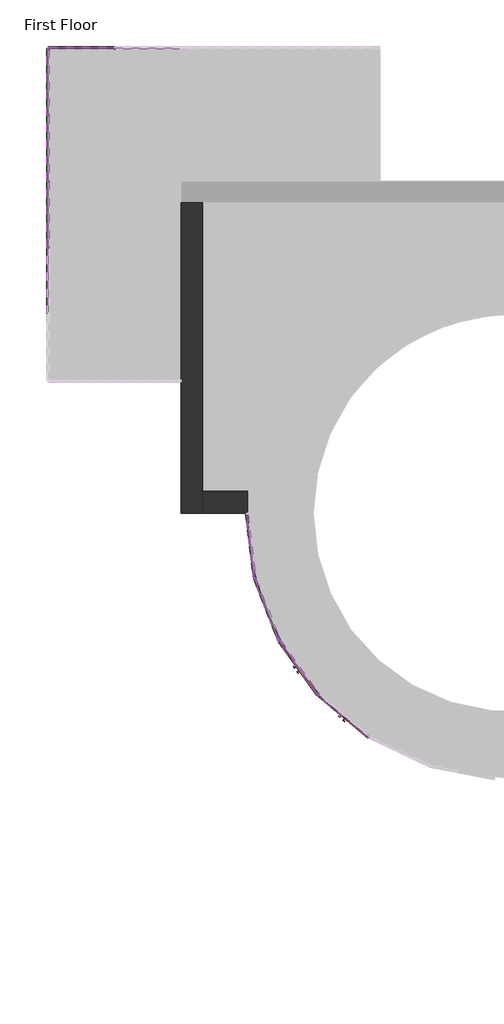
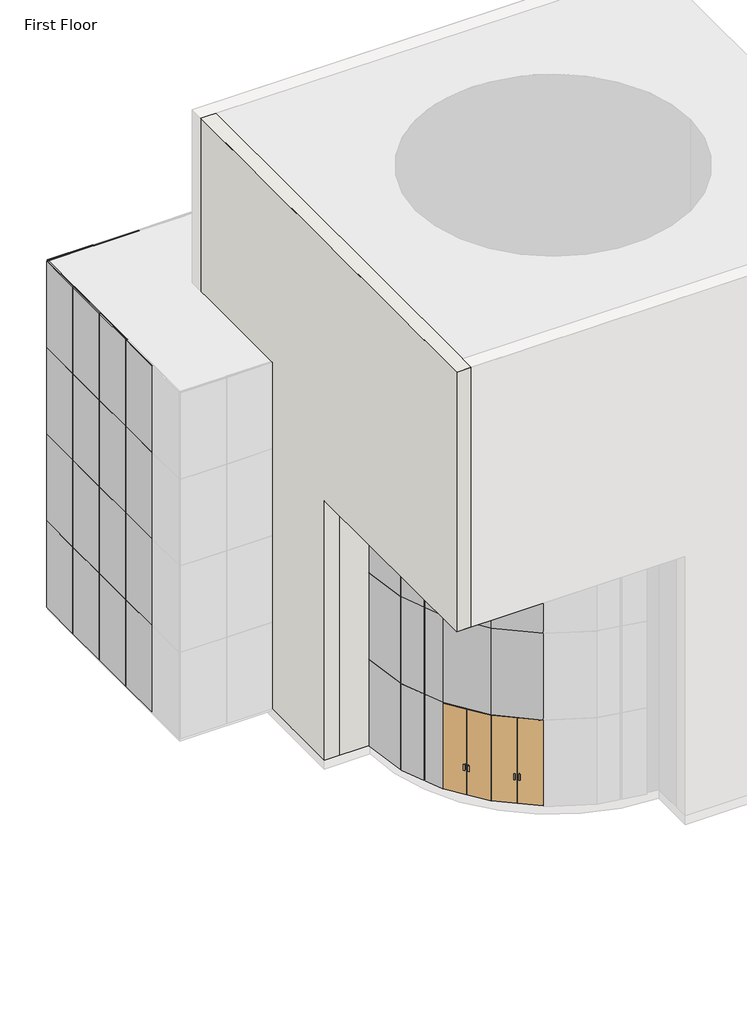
# One storey, part 3 of 4: 73 members, 30 plates, 2 doors, 2 walls.
"""IFC4 building model written with IfcOpenShell, lengths in millimetres."""

from ifc_helpers import new_model, si_unit, origin, origin_with_axes, place, context, project, spatial, polyline, outline, extrude, faceted_brep, transform, mapped, element, save
from components import curtain_wall_dbl_glass_curtain_wall_dbl_glass_35f7ff88, member_74941792, member_5e617a80, member_9fd3d903, member_cbdb9076, member_6604d1e0, member_7e523723, member_648f3f05, member_e23d1186, member_8003fc1d, member_113f7001, member_5d503216, system_panel_glazed_9c75bc08

model = new_model("IFC4")

# Units and contexts
model_context = context("Model", 3, world=origin())
ifc_project = project(units=[si_unit("LENGTHUNIT", "METRE", prefix="MILLI")], contexts=[model_context])

# Site, building, storey
site = spatial("IfcSite", under=ifc_project)
building = spatial("IfcBuilding", under=site)
storey = spatial("IfcBuildingStorey", under=building, Name="First Floor", Elevation=0.0)

# Doors
placement = place(None, origin())
curtain_wall_dbl_glass_curtain_wall_dbl_glass_shape = curtain_wall_dbl_glass_curtain_wall_dbl_glass_35f7ff88(model_context)
element("IfcDoor", 1, ObjectType="Curtain Wall Dbl Glass : Curtain Wall Dbl Glass", at=placement, inside=storey, context=model_context, shape_type="MappedRepresentation", body=[
    mapped(curtain_wall_dbl_glass_curtain_wall_dbl_glass_shape, transform((-11784.3130887, 1572.3130651, 25.4), x_axis=(0.5864257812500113, -0.8100029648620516, 0.0), y_axis=(0.8100029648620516, 0.5864257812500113, 0.0), z_axis=(0.0, 0.0, 1.0))),
])
element("IfcDoor", 2, ObjectType="Curtain Wall Dbl Glass : Curtain Wall Dbl Glass", at=placement, inside=storey, context=model_context, shape_type="MappedRepresentation", body=[
    mapped(curtain_wall_dbl_glass_curtain_wall_dbl_glass_shape, transform((-10751.4691556, 467.9946509, 25.4), x_axis=(0.7690124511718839, -0.6392337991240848, 0.0), y_axis=(0.6392337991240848, 0.7690124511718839, 0.0), z_axis=(0.0, 0.0, 1.0))),
])

# Members
member_shape = member_74941792(model_context)
element("IfcMember", 3, ObjectType="Rectangular Mullion : 1\" Square", at=placement, inside=storey, context=model_context, shape_type="MappedRepresentation", body=[
    mapped(member_shape, transform((-17553.263284, 15761.7261432, 0.0), x_axis=(0.0, 0.0, -1.0), y_axis=(-1.0, 0.0, 0.0), z_axis=(0.0, 1.0, 0.0))),
])
element("IfcMember", 4, ObjectType="Rectangular Mullion : 1\" Square", at=placement, inside=storey, context=model_context, shape_type="MappedRepresentation", body=[
    mapped(member_shape, transform((-16041.963284, 15787.1261432, 0.0), x_axis=(0.0, 0.0, -1.0), y_axis=(0.0, 1.0, 0.0), z_axis=(1.0, 0.0, 0.0))),
])
member_2_shape = member_5e617a80(model_context)
element("IfcMember", 5, ObjectType="Rectangular Mullion : 1\" Square", at=placement, inside=storey, context=model_context, shape_type="MappedRepresentation", body=[
    mapped(member_2_shape, transform((-17553.263284, 14275.8261432, 6096.0), x_axis=(0.0, 0.0, 1.0), y_axis=(-1.0, 0.0, 0.0), z_axis=(0.0, -1.0, 0.0))),
])
element("IfcMember", 6, ObjectType="Rectangular Mullion : 1\" Square", at=placement, inside=storey, context=model_context, shape_type="MappedRepresentation", body=[
    mapped(member_2_shape, transform((-17553.263284, 14275.8261432, 9144.0), x_axis=(0.0, 0.0, 1.0), y_axis=(-1.0, 0.0, 0.0), z_axis=(0.0, -1.0, 0.0))),
])
element("IfcMember", 7, ObjectType="Rectangular Mullion : 1\" Square", at=placement, inside=storey, context=model_context, shape_type="MappedRepresentation", body=[
    mapped(member_2_shape, transform((-17553.263284, 14275.8261432, 3048.0), x_axis=(0.0, 0.0, 1.0), y_axis=(-1.0, 0.0, 0.0), z_axis=(0.0, -1.0, 0.0))),
])
element("IfcMember", 8, ObjectType="Rectangular Mullion : 1\" Square", at=placement, inside=storey, context=model_context, shape_type="MappedRepresentation", body=[
    mapped(member_2_shape, transform((-17527.863284, 15787.1261432, 9144.0), x_axis=(0.0, 0.0, 1.0), y_axis=(0.0, 1.0, 0.0), z_axis=(-1.0, 0.0, 0.0))),
])
element("IfcMember", 9, ObjectType="Rectangular Mullion : 1\" Square", at=placement, inside=storey, context=model_context, shape_type="MappedRepresentation", body=[
    mapped(member_2_shape, transform((-17527.863284, 15787.1261432, 3048.0), x_axis=(0.0, 0.0, 1.0), y_axis=(0.0, 1.0, 0.0), z_axis=(-1.0, 0.0, 0.0))),
])
element("IfcMember", 10, ObjectType="Rectangular Mullion : 1\" Square", at=placement, inside=storey, context=model_context, shape_type="MappedRepresentation", body=[
    mapped(member_2_shape, transform((-17527.863284, 15787.1261432, 6096.0), x_axis=(0.0, 0.0, 1.0), y_axis=(0.0, 1.0, 0.0), z_axis=(-1.0, 0.0, 0.0))),
])
member_3_shape = member_9fd3d903(model_context)
element("IfcMember", 11, ObjectType="Rectangular Mullion : 1\" Square", at=placement, inside=storey, context=model_context, shape_type="MappedRepresentation", body=[
    mapped(member_3_shape, transform((-17553.263284, 12751.8261432, 6096.0), x_axis=(0.0, 0.0, 1.0), y_axis=(-1.0, 0.0, 0.0), z_axis=(0.0, -1.0, 0.0))),
])
element("IfcMember", 12, ObjectType="Rectangular Mullion : 1\" Square", at=placement, inside=storey, context=model_context, shape_type="MappedRepresentation", body=[
    mapped(member_3_shape, transform((-17553.263284, 11227.8261432, 6096.0), x_axis=(0.0, 0.0, 1.0), y_axis=(-1.0, 0.0, 0.0), z_axis=(0.0, -1.0, 0.0))),
])
element("IfcMember", 13, ObjectType="Rectangular Mullion : 1\" Square", at=placement, inside=storey, context=model_context, shape_type="MappedRepresentation", body=[
    mapped(member_3_shape, transform((-17553.263284, 12751.8261432, 9144.0), x_axis=(0.0, 0.0, 1.0), y_axis=(-1.0, 0.0, 0.0), z_axis=(0.0, -1.0, 0.0))),
])
element("IfcMember", 14, ObjectType="Rectangular Mullion : 1\" Square", at=placement, inside=storey, context=model_context, shape_type="MappedRepresentation", body=[
    mapped(member_3_shape, transform((-17553.263284, 11227.8261432, 9144.0), x_axis=(0.0, 0.0, 1.0), y_axis=(-1.0, 0.0, 0.0), z_axis=(0.0, -1.0, 0.0))),
])
element("IfcMember", 15, ObjectType="Rectangular Mullion : 1\" Square", at=placement, inside=storey, context=model_context, shape_type="MappedRepresentation", body=[
    mapped(member_3_shape, transform((-17553.263284, 12751.8261432, 3048.0), x_axis=(0.0, 0.0, 1.0), y_axis=(-1.0, 0.0, 0.0), z_axis=(0.0, -1.0, 0.0))),
])
element("IfcMember", 16, ObjectType="Rectangular Mullion : 1\" Square", at=placement, inside=storey, context=model_context, shape_type="MappedRepresentation", body=[
    mapped(member_3_shape, transform((-17553.263284, 11227.8261432, 3048.0), x_axis=(0.0, 0.0, 1.0), y_axis=(-1.0, 0.0, 0.0), z_axis=(0.0, -1.0, 0.0))),
])
element("IfcMember", 17, ObjectType="Rectangular Mullion : 1\" Square", at=placement, inside=storey, context=model_context, shape_type="MappedRepresentation", body=[
    mapped(member_3_shape, transform((-16016.563284, 15787.1261432, 6096.0), x_axis=(0.0, 0.0, 1.0), y_axis=(0.0, 1.0, 0.0), z_axis=(-1.0, 0.0, 0.0))),
])
element("IfcMember", 18, ObjectType="Rectangular Mullion : 1\" Square", at=placement, inside=storey, context=model_context, shape_type="MappedRepresentation", body=[
    mapped(member_3_shape, transform((-16016.563284, 15787.1261432, 9144.0), x_axis=(0.0, 0.0, 1.0), y_axis=(0.0, 1.0, 0.0), z_axis=(-1.0, 0.0, 0.0))),
])
element("IfcMember", 19, ObjectType="Rectangular Mullion : 1\" Square", at=placement, inside=storey, context=model_context, shape_type="MappedRepresentation", body=[
    mapped(member_3_shape, transform((-16016.563284, 15787.1261432, 3048.0), x_axis=(0.0, 0.0, 1.0), y_axis=(0.0, 1.0, 0.0), z_axis=(-1.0, 0.0, 0.0))),
])
member_4_shape = member_cbdb9076(model_context)
element("IfcMember", 20, ObjectType="Rectangular Mullion : 1\" Square", at=placement, inside=storey, context=model_context, shape_type="MappedRepresentation", body=[
    mapped(member_4_shape, transform((-17553.263284, 12739.1261432, 0.0), x_axis=(0.0, -1.0, 0.0), y_axis=(-1.0, 0.0, 0.0), z_axis=(0.0, 0.0, -1.0))),
])
element("IfcMember", 21, ObjectType="Rectangular Mullion : 1\" Square", at=placement, inside=storey, context=model_context, shape_type="MappedRepresentation", body=[
    mapped(member_4_shape, transform((-17553.263284, 11215.1261432, 0.0), x_axis=(0.0, -1.0, 0.0), y_axis=(-1.0, 0.0, 0.0), z_axis=(0.0, 0.0, -1.0))),
])
element("IfcMember", 22, ObjectType="Rectangular Mullion : 1\" Square", at=placement, inside=storey, context=model_context, shape_type="MappedRepresentation", body=[
    mapped(member_4_shape, transform((-17553.263284, 14263.1261432, 0.0), x_axis=(0.0, -1.0, 0.0), y_axis=(-1.0, 0.0, 0.0), z_axis=(0.0, 0.0, -1.0))),
])
element("IfcMember", 23, ObjectType="Rectangular Mullion : 1\" Square", at=placement, inside=storey, context=model_context, shape_type="MappedRepresentation", body=[
    mapped(member_4_shape, transform((-12790.763284, 3607.079269, 0.0), x_axis=(0.2480391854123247, -0.9687499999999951, 0.0), y_axis=(-0.9687499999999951, -0.2480391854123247, 0.0), z_axis=(0.0, 0.0, -1.0))),
])
element("IfcMember", 24, ObjectType="Rectangular Mullion : 1\" Square", at=placement, inside=storey, context=model_context, shape_type="MappedRepresentation", body=[
    mapped(member_4_shape, transform((-12231.169534, 2189.5353243, 0.0), x_axis=(0.48057592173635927, -0.8769531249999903, 0.0), y_axis=(-0.8769531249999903, -0.48057592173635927, 0.0), z_axis=(0.0, 0.0, -1.0))),
])
element("IfcMember", 25, ObjectType="Rectangular Mullion : 1\" Square", at=placement, inside=storey, context=model_context, shape_type="MappedRepresentation", body=[
    mapped(member_4_shape, transform((-11337.4566434, 955.0908059, 0.0), x_axis=(0.6830766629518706, -0.7303466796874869, 0.0), y_axis=(-0.7303466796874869, -0.6830766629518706, 0.0), z_axis=(0.0, 0.0, -1.0))),
])
element("IfcMember", 26, ObjectType="Rectangular Mullion : 1\" Square", at=placement, inside=storey, context=model_context, shape_type="MappedRepresentation", body=[
    mapped(member_4_shape, transform((-16029.263284, 15787.1261432, 0.0), x_axis=(-1.0, 0.0, 0.0), y_axis=(0.0, 1.0, 0.0), z_axis=(0.0, 0.0, -1.0))),
])
member_5_shape = member_6604d1e0(model_context)
element("IfcMember", 27, ObjectType="Rectangular Mullion : 1\" Square", at=placement, inside=storey, context=model_context, shape_type="MappedRepresentation", body=[
    mapped(member_5_shape, transform((-17553.263284, 11227.8261432, 12192.0), x_axis=(0.0, 0.0, 1.0), y_axis=(-1.0, 0.0, 0.0), z_axis=(0.0, -1.0, 0.0))),
])
element("IfcMember", 28, ObjectType="Rectangular Mullion : 1\" Square", at=placement, inside=storey, context=model_context, shape_type="MappedRepresentation", body=[
    mapped(member_5_shape, transform((-17553.263284, 12751.8261432, 12192.0), x_axis=(0.0, 0.0, 1.0), y_axis=(-1.0, 0.0, 0.0), z_axis=(0.0, -1.0, 0.0))),
])
element("IfcMember", 29, ObjectType="Rectangular Mullion : 1\" Square", at=placement, inside=storey, context=model_context, shape_type="MappedRepresentation", body=[
    mapped(member_5_shape, transform((-16016.563284, 15787.1261432, 12192.0), x_axis=(0.0, 0.0, 1.0), y_axis=(0.0, 1.0, 0.0), z_axis=(-1.0, 0.0, 0.0))),
])
element("IfcMember", 30, ObjectType="Rectangular Mullion : 1\" Square", at=placement, inside=storey, context=model_context, shape_type="MappedRepresentation", body=[
    mapped(member_4_shape, transform((-17553.263284, 14263.1261432, 3048.0), x_axis=(0.0, -1.0, 0.0), y_axis=(-1.0, 0.0, 0.0), z_axis=(0.0, 0.0, -1.0))),
])
element("IfcMember", 31, ObjectType="Rectangular Mullion : 1\" Square", at=placement, inside=storey, context=model_context, shape_type="MappedRepresentation", body=[
    mapped(member_4_shape, transform((-17553.263284, 14263.1261432, 6096.0), x_axis=(0.0, -1.0, 0.0), y_axis=(-1.0, 0.0, 0.0), z_axis=(0.0, 0.0, -1.0))),
])
element("IfcMember", 32, ObjectType="Rectangular Mullion : 1\" Square", at=placement, inside=storey, context=model_context, shape_type="MappedRepresentation", body=[
    mapped(member_4_shape, transform((-17553.263284, 12739.1261432, 3048.0), x_axis=(0.0, -1.0, 0.0), y_axis=(-1.0, 0.0, 0.0), z_axis=(0.0, 0.0, -1.0))),
])
element("IfcMember", 33, ObjectType="Rectangular Mullion : 1\" Square", at=placement, inside=storey, context=model_context, shape_type="MappedRepresentation", body=[
    mapped(member_4_shape, transform((-17553.263284, 12739.1261432, 6096.0), x_axis=(0.0, -1.0, 0.0), y_axis=(-1.0, 0.0, 0.0), z_axis=(0.0, 0.0, -1.0))),
])
element("IfcMember", 34, ObjectType="Rectangular Mullion : 1\" Square", at=placement, inside=storey, context=model_context, shape_type="MappedRepresentation", body=[
    mapped(member_4_shape, transform((-17553.263284, 11215.1261432, 3048.0), x_axis=(0.0, -1.0, 0.0), y_axis=(-1.0, 0.0, 0.0), z_axis=(0.0, 0.0, -1.0))),
])
element("IfcMember", 35, ObjectType="Rectangular Mullion : 1\" Square", at=placement, inside=storey, context=model_context, shape_type="MappedRepresentation", body=[
    mapped(member_4_shape, transform((-17553.263284, 11215.1261432, 6096.0), x_axis=(0.0, -1.0, 0.0), y_axis=(-1.0, 0.0, 0.0), z_axis=(0.0, 0.0, -1.0))),
])
element("IfcMember", 36, ObjectType="Rectangular Mullion : 1\" Square", at=placement, inside=storey, context=model_context, shape_type="MappedRepresentation", body=[
    mapped(member_4_shape, transform((-12790.763284, 3607.079269, 3048.0), x_axis=(0.2480391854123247, -0.9687499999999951, 0.0), y_axis=(-0.9687499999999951, -0.2480391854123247, 0.0), z_axis=(0.0, 0.0, -1.0))),
])
element("IfcMember", 37, ObjectType="Rectangular Mullion : 1\" Square", at=placement, inside=storey, context=model_context, shape_type="MappedRepresentation", body=[
    mapped(member_4_shape, transform((-12231.169534, 2189.5353243, 3048.0), x_axis=(0.48057592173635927, -0.8769531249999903, 0.0), y_axis=(-0.8769531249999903, -0.48057592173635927, 0.0), z_axis=(0.0, 0.0, -1.0))),
])
element("IfcMember", 38, ObjectType="Rectangular Mullion : 1\" Square", at=placement, inside=storey, context=model_context, shape_type="MappedRepresentation", body=[
    mapped(member_4_shape, transform((-11337.4566434, 955.0908059, 3048.0), x_axis=(0.6830766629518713, -0.7303466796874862, 0.0), y_axis=(-0.7303466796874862, -0.6830766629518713, 0.0), z_axis=(0.0, 0.0, -1.0))),
])
element("IfcMember", 39, ObjectType="Rectangular Mullion : 1\" Square", at=placement, inside=storey, context=model_context, shape_type="MappedRepresentation", body=[
    mapped(member_4_shape, transform((-16029.263284, 15787.1261432, 3048.0), x_axis=(-1.0, 0.0, 0.0), y_axis=(0.0, 1.0, 0.0), z_axis=(0.0, 0.0, -1.0))),
])
element("IfcMember", 40, ObjectType="Rectangular Mullion : 1\" Square", at=placement, inside=storey, context=model_context, shape_type="MappedRepresentation", body=[
    mapped(member_4_shape, transform((-16029.263284, 15787.1261432, 6096.0), x_axis=(-1.0, 0.0, 0.0), y_axis=(0.0, 1.0, 0.0), z_axis=(0.0, 0.0, -1.0))),
])
element("IfcMember", 41, ObjectType="Rectangular Mullion : 1\" Square", at=placement, inside=storey, context=model_context, shape_type="MappedRepresentation", body=[
    mapped(member_4_shape, transform((-17553.263284, 14263.1261432, 9144.0), x_axis=(0.0, -1.0, 0.0), y_axis=(-1.0, 0.0, 0.0), z_axis=(0.0, 0.0, -1.0))),
])
element("IfcMember", 42, ObjectType="Rectangular Mullion : 1\" Square", at=placement, inside=storey, context=model_context, shape_type="MappedRepresentation", body=[
    mapped(member_4_shape, transform((-17553.263284, 12739.1261432, 9144.0), x_axis=(0.0, -1.0, 0.0), y_axis=(-1.0, 0.0, 0.0), z_axis=(0.0, 0.0, -1.0))),
])
element("IfcMember", 43, ObjectType="Rectangular Mullion : 1\" Square", at=placement, inside=storey, context=model_context, shape_type="MappedRepresentation", body=[
    mapped(member_4_shape, transform((-17553.263284, 11215.1261432, 9144.0), x_axis=(0.0, -1.0, 0.0), y_axis=(-1.0, 0.0, 0.0), z_axis=(0.0, 0.0, -1.0))),
])
element("IfcMember", 44, ObjectType="Rectangular Mullion : 1\" Square", at=placement, inside=storey, context=model_context, shape_type="MappedRepresentation", body=[
    mapped(member_4_shape, transform((-12790.763284, 3607.079269, 6096.0), x_axis=(0.2480391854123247, -0.9687499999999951, 0.0), y_axis=(-0.9687499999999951, -0.2480391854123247, 0.0), z_axis=(0.0, 0.0, -1.0))),
])
element("IfcMember", 45, ObjectType="Rectangular Mullion : 1\" Square", at=placement, inside=storey, context=model_context, shape_type="MappedRepresentation", body=[
    mapped(member_4_shape, transform((-12231.169534, 2189.5353243, 6096.0), x_axis=(0.48057592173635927, -0.8769531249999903, 0.0), y_axis=(-0.8769531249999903, -0.48057592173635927, 0.0), z_axis=(0.0, 0.0, -1.0))),
])
element("IfcMember", 46, ObjectType="Rectangular Mullion : 1\" Square", at=placement, inside=storey, context=model_context, shape_type="MappedRepresentation", body=[
    mapped(member_4_shape, transform((-11337.4566434, 955.0908059, 6096.0), x_axis=(0.683076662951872, -0.7303466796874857, 0.0), y_axis=(-0.7303466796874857, -0.683076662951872, 0.0), z_axis=(0.0, 0.0, -1.0))),
])
element("IfcMember", 47, ObjectType="Rectangular Mullion : 1\" Square", at=placement, inside=storey, context=model_context, shape_type="MappedRepresentation", body=[
    mapped(member_4_shape, transform((-16029.263284, 15787.1261432, 9144.0), x_axis=(-1.0, 0.0, 0.0), y_axis=(0.0, 1.0, 0.0), z_axis=(0.0, 0.0, -1.0))),
])
element("IfcMember", 48, ObjectType="Rectangular Mullion : 1\" Square", at=placement, inside=storey, context=model_context, shape_type="MappedRepresentation", body=[
    mapped(member_5_shape, transform((-17553.263284, 14250.4261432, 0.0), x_axis=(0.0, 0.0, -1.0), y_axis=(-1.0, 0.0, 0.0), z_axis=(0.0, 1.0, 0.0))),
])
element("IfcMember", 49, ObjectType="Rectangular Mullion : 1\" Square", at=placement, inside=storey, context=model_context, shape_type="MappedRepresentation", body=[
    mapped(member_5_shape, transform((-17553.263284, 12726.4261432, 0.0), x_axis=(0.0, 0.0, -1.0), y_axis=(-1.0, 0.0, 0.0), z_axis=(0.0, 1.0, 0.0))),
])
element("IfcMember", 50, ObjectType="Rectangular Mullion : 1\" Square", at=placement, inside=storey, context=model_context, shape_type="MappedRepresentation", body=[
    mapped(member_5_shape, transform((-17553.263284, 11202.4261432, 0.0), x_axis=(0.0, 0.0, -1.0), y_axis=(-1.0, 0.0, 0.0), z_axis=(0.0, 1.0, 0.0))),
])
element("IfcMember", 51, ObjectType="Rectangular Mullion : 1\" Square", at=placement, inside=storey, context=model_context, shape_type="MappedRepresentation", body=[
    mapped(member_shape, transform((-17553.263284, 14275.8261432, 12192.0), x_axis=(0.0, 0.0, 1.0), y_axis=(-1.0, 0.0, 0.0), z_axis=(0.0, -1.0, 0.0))),
])
element("IfcMember", 52, ObjectType="Rectangular Mullion : 1\" Square", at=placement, inside=storey, context=model_context, shape_type="MappedRepresentation", body=[
    mapped(member_shape, transform((-17527.863284, 15787.1261432, 12192.0), x_axis=(0.0, 0.0, 1.0), y_axis=(0.0, 1.0, 0.0), z_axis=(-1.0, 0.0, 0.0))),
])
member_6_shape = member_7e523723(model_context)
element("IfcMember", 53, ObjectType="Rectangular Mullion : 1\" Square", at=placement, inside=storey, context=model_context, shape_type="MappedRepresentation", body=[
    mapped(member_6_shape, transform((-17553.263284, 15787.1261432, 0.0), x_axis=(-1.0, 0.0, 0.0), y_axis=(0.0, 1.0, 0.0), z_axis=(0.0, 0.0, -1.0))),
])
element("IfcMember", 54, ObjectType="Rectangular Mullion : 1\" Square", at=placement, inside=storey, context=model_context, shape_type="MappedRepresentation", body=[
    mapped(member_6_shape, transform((-17553.263284, 15787.1261432, 3048.0), x_axis=(0.0, 1.0, 0.0), y_axis=(-1.0, 0.0, 0.0), z_axis=(0.0, 0.0, 1.0))),
])
element("IfcMember", 55, ObjectType="Rectangular Mullion : 1\" Square", at=placement, inside=storey, context=model_context, shape_type="MappedRepresentation", body=[
    mapped(member_6_shape, transform((-12981.263284, 5119.1261432, 3048.0), x_axis=(-0.12500000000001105, 0.9921567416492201, 0.0), y_axis=(-0.9921567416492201, -0.12500000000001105, 0.0), z_axis=(0.0, 0.0, 1.0))),
])
element("IfcMember", 56, ObjectType="Rectangular Mullion : 1\" Square", at=placement, inside=storey, context=model_context, shape_type="MappedRepresentation", body=[
    mapped(member_6_shape, transform((-17553.263284, 15787.1261432, 6096.0), x_axis=(0.0, 1.0, 0.0), y_axis=(-1.0, 0.0, 0.0), z_axis=(0.0, 0.0, 1.0))),
])
element("IfcMember", 57, ObjectType="Rectangular Mullion : 1\" Square", at=placement, inside=storey, context=model_context, shape_type="MappedRepresentation", body=[
    mapped(member_6_shape, transform((-17553.263284, 15787.1261432, 9144.0), x_axis=(0.0, 1.0, 0.0), y_axis=(-1.0, 0.0, 0.0), z_axis=(0.0, 0.0, 1.0))),
])
element("IfcMember", 58, ObjectType="Rectangular Mullion : 1\" Square", at=placement, inside=storey, context=model_context, shape_type="MappedRepresentation", body=[
    mapped(member_6_shape, transform((-12981.263284, 5119.1261432, 6096.0), x_axis=(-0.12500000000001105, 0.9921567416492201, 0.0), y_axis=(-0.9921567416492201, -0.12500000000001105, 0.0), z_axis=(0.0, 0.0, 1.0))),
])
element("IfcMember", 59, ObjectType="Rectangular Mullion : 1\" Square", at=placement, inside=storey, context=model_context, shape_type="MappedRepresentation", body=[
    mapped(member_6_shape, transform((-17553.263284, 15787.1261432, 3048.0), x_axis=(-1.0, 0.0, 0.0), y_axis=(0.0, 1.0, 0.0), z_axis=(0.0, 0.0, -1.0))),
])
element("IfcMember", 60, ObjectType="Rectangular Mullion : 1\" Square", at=placement, inside=storey, context=model_context, shape_type="MappedRepresentation", body=[
    mapped(member_6_shape, transform((-17553.263284, 15787.1261432, 6096.0), x_axis=(-1.0, 0.0, 0.0), y_axis=(0.0, 1.0, 0.0), z_axis=(0.0, 0.0, -1.0))),
])
element("IfcMember", 61, ObjectType="Rectangular Mullion : 1\" Square", at=placement, inside=storey, context=model_context, shape_type="MappedRepresentation", body=[
    mapped(member_6_shape, transform((-17553.263284, 15787.1261432, 9144.0), x_axis=(-1.0, 0.0, 0.0), y_axis=(0.0, 1.0, 0.0), z_axis=(0.0, 0.0, -1.0))),
])
element("IfcMember", 62, ObjectType="Rectangular Mullion : 1\" Square", at=placement, inside=storey, context=model_context, shape_type="MappedRepresentation", body=[
    mapped(member_6_shape, transform((-17553.263284, 15787.1261432, 12192.0), x_axis=(0.0, 1.0, 0.0), y_axis=(-1.0, 0.0, 0.0), z_axis=(0.0, 0.0, 1.0))),
])
member_7_shape = member_648f3f05(model_context)
element("IfcMember", 63, ObjectType="Rectangular Mullion : 1\" Square", at=placement, inside=storey, context=model_context, shape_type="MappedRepresentation", body=[
    mapped(member_7_shape, transform((-12235.8328152, 2201.3481905, 6096.0), x_axis=(0.0, 0.0, 1.0), y_axis=(-0.9301469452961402, -0.36718750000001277, 0.0), z_axis=(0.3671875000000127, -0.9301469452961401, 0.0))),
])
element("IfcMember", 64, ObjectType="Rectangular Mullion : 1\" Square", at=placement, inside=storey, context=model_context, shape_type="MappedRepresentation", body=[
    mapped(member_7_shape, transform((-11344.9042508, 965.3778435, 6096.0), x_axis=(0.0, 0.0, 1.0), y_axis=(-0.8100029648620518, -0.586425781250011, 0.0), z_axis=(0.586425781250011, -0.8100029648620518, 0.0))),
])
element("IfcMember", 65, ObjectType="Rectangular Mullion : 1\" Square", at=placement, inside=storey, context=model_context, shape_type="MappedRepresentation", body=[
    mapped(member_7_shape, transform((-12235.8328152, 2201.3481905, 3048.0), x_axis=(0.0, 0.0, 1.0), y_axis=(-0.9301469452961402, -0.36718750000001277, 0.0), z_axis=(0.3671875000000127, -0.9301469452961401, 0.0))),
])
element("IfcMember", 66, ObjectType="Rectangular Mullion : 1\" Square", at=placement, inside=storey, context=model_context, shape_type="MappedRepresentation", body=[
    mapped(member_7_shape, transform((-11344.9042508, 965.3778435, 3048.0), x_axis=(0.0, 0.0, 1.0), y_axis=(-0.8100029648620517, -0.5864257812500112, 0.0), z_axis=(0.5864257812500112, -0.8100029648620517, 0.0))),
])
member_8_shape = member_e23d1186(model_context)
element("IfcMember", 67, ObjectType="Rectangular Mullion : 1\" Square", at=placement, inside=storey, context=model_context, shape_type="MappedRepresentation", body=[
    mapped(member_8_shape, transform((-12792.350784, 3619.6796596, 6096.0), x_axis=(0.0, 0.0, 1.0), y_axis=(-0.9921567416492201, -0.12500000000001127, 0.0), z_axis=(0.12500000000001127, -0.9921567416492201, 0.0))),
])
element("IfcMember", 68, ObjectType="Rectangular Mullion : 1\" Square", at=placement, inside=storey, context=model_context, shape_type="MappedRepresentation", body=[
    mapped(member_8_shape, transform((-12792.350784, 3619.6796596, 3048.0), x_axis=(0.0, 0.0, 1.0), y_axis=(-0.9921567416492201, -0.12500000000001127, 0.0), z_axis=(0.12500000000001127, -0.9921567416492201, 0.0))),
])
member_9_shape = member_8003fc1d(model_context)
element("IfcMember", 69, ObjectType="Rectangular Mullion : 1\" Square", at=placement, inside=storey, context=model_context, shape_type="MappedRepresentation", body=[
    mapped(member_9_shape, transform((-12978.088284, 5093.925362, 0.0), x_axis=(0.0, 0.0, -1.0), y_axis=(-0.9921567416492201, -0.12500000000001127, 0.0), z_axis=(-0.12500000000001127, 0.9921567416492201, 0.0))),
])
member_10_shape = member_113f7001(model_context)
element("IfcMember", 70, ObjectType="Rectangular Mullion : 1\" Square", at=placement, inside=storey, context=model_context, shape_type="MappedRepresentation", body=[
    mapped(member_10_shape, transform((-12786.1000027, 3595.2664028, 0.0), x_axis=(0.0, 0.0, -1.0), y_axis=(-0.9301469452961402, -0.3671875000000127, 0.0), z_axis=(-0.36718750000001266, 0.9301469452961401, 0.0))),
])
element("IfcMember", 71, ObjectType="Rectangular Mullion : 1\" Square", at=placement, inside=storey, context=model_context, shape_type="MappedRepresentation", body=[
    mapped(member_10_shape, transform((-12223.7219266, 2179.2482867, 0.0), x_axis=(0.0, 0.0, -1.0), y_axis=(-0.8100029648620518, -0.5864257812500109, 0.0), z_axis=(-0.5864257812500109, 0.8100029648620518, 0.0))),
])
element("IfcMember", 72, ObjectType="Rectangular Mullion : 1\" Square", at=placement, inside=storey, context=model_context, shape_type="MappedRepresentation", body=[
    mapped(member_10_shape, transform((-11327.6901852, 946.9725366, 0.0), x_axis=(0.0, 0.0, -1.0), y_axis=(-0.6392337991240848, -0.7690124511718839, 0.0), z_axis=(-0.7690124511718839, 0.6392337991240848, 0.0))),
])
member_11_shape = member_5d503216(model_context)
element("IfcMember", 73, ObjectType="Rectangular Mullion : 1\" Square", at=placement, inside=storey, context=model_context, shape_type="MappedRepresentation", body=[
    mapped(member_11_shape, transform((-12792.350784, 3619.6796596, 9144.0), x_axis=(0.0, 0.0, 1.0), y_axis=(-0.9921567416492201, -0.12500000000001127, 0.0), z_axis=(0.12500000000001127, -0.9921567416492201, 0.0))),
])
element("IfcMember", 74, ObjectType="Rectangular Mullion : 1\" Square", at=placement, inside=storey, context=model_context, shape_type="MappedRepresentation", body=[
    mapped(member_10_shape, transform((-12235.8328152, 2201.3481905, 9144.0), x_axis=(0.0, 0.0, 1.0), y_axis=(-0.9301469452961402, -0.3671875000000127, 0.0), z_axis=(0.36718750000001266, -0.9301469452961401, 0.0))),
])
element("IfcMember", 75, ObjectType="Rectangular Mullion : 1\" Square", at=placement, inside=storey, context=model_context, shape_type="MappedRepresentation", body=[
    mapped(member_10_shape, transform((-11344.9042508, 965.3778435, 9144.0), x_axis=(0.0, 0.0, 1.0), y_axis=(-0.8100029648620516, -0.5864257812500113, 0.0), z_axis=(0.5864257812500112, -0.8100029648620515, 0.0))),
])

# Plates
system_panel_glazed_shape = system_panel_glazed_9c75bc08(model_context)
element("IfcPlate", 76, ObjectType="System Panel : Glazed", at=placement, inside=storey, context=model_context, shape_type="MappedRepresentation", body=[
    mapped(system_panel_glazed_shape, transform((-17553.263284, 15025.1261432, 0.0), x_axis=(0.0, -1.0, 0.0), y_axis=(1.0, 0.0, 0.0), z_axis=(0.0, 0.0, 1.0))),
])
element("IfcPlate", 77, ObjectType="System Panel : Glazed", at=placement, inside=storey, context=model_context, shape_type="MappedRepresentation", body=[
    mapped(system_panel_glazed_shape, transform((-17553.263284, 13501.1261432, 0.0), x_axis=(0.0, -1.0, 0.0), y_axis=(1.0, 0.0, 0.0), z_axis=(0.0, 0.0, 1.0))),
])
element("IfcPlate", 78, ObjectType="System Panel : Glazed", at=placement, inside=storey, context=model_context, shape_type="MappedRepresentation", body=[
    mapped(system_panel_glazed_shape, transform((-17553.263284, 11977.1261432, 0.0), x_axis=(0.0, -1.0, 0.0), y_axis=(1.0, 0.0, 0.0), z_axis=(0.0, 0.0, 1.0))),
])
element("IfcPlate", 79, ObjectType="System Panel : Glazed", at=placement, inside=storey, context=model_context, shape_type="MappedRepresentation", body=[
    mapped(system_panel_glazed_shape, transform((-17553.263284, 10453.1261432, 0.0), x_axis=(0.0, -1.0, 0.0), y_axis=(1.0, 0.0, 0.0), z_axis=(0.0, 0.0, 1.0))),
])
element("IfcPlate", 80, ObjectType="System Panel : Glazed", at=placement, inside=storey, context=model_context, shape_type="MappedRepresentation", body=[
    mapped(system_panel_glazed_shape, transform((-17553.263284, 15025.1261432, 3048.0), x_axis=(0.0, -1.0, 0.0), y_axis=(1.0, 0.0, 0.0), z_axis=(0.0, 0.0, 1.0))),
])
element("IfcPlate", 81, ObjectType="System Panel : Glazed", at=placement, inside=storey, context=model_context, shape_type="MappedRepresentation", body=[
    mapped(system_panel_glazed_shape, transform((-17553.263284, 13501.1261432, 3048.0), x_axis=(0.0, -1.0, 0.0), y_axis=(1.0, 0.0, 0.0), z_axis=(0.0, 0.0, 1.0))),
])
element("IfcPlate", 82, ObjectType="System Panel : Glazed", at=placement, inside=storey, context=model_context, shape_type="MappedRepresentation", body=[
    mapped(system_panel_glazed_shape, transform((-17553.263284, 11977.1261432, 3048.0), x_axis=(0.0, -1.0, 0.0), y_axis=(1.0, 0.0, 0.0), z_axis=(0.0, 0.0, 1.0))),
])
element("IfcPlate", 83, ObjectType="System Panel : Glazed", at=placement, inside=storey, context=model_context, shape_type="MappedRepresentation", body=[
    mapped(system_panel_glazed_shape, transform((-17553.263284, 10453.1261432, 3048.0), x_axis=(0.0, -1.0, 0.0), y_axis=(1.0, 0.0, 0.0), z_axis=(0.0, 0.0, 1.0))),
])
element("IfcPlate", 84, ObjectType="System Panel : Glazed", at=placement, inside=storey, context=model_context, shape_type="MappedRepresentation", body=[
    mapped(system_panel_glazed_shape, transform((-17553.263284, 15025.1261432, 6096.0), x_axis=(0.0, -1.0, 0.0), y_axis=(1.0, 0.0, 0.0), z_axis=(0.0, 0.0, 1.0))),
])
element("IfcPlate", 85, ObjectType="System Panel : Glazed", at=placement, inside=storey, context=model_context, shape_type="MappedRepresentation", body=[
    mapped(system_panel_glazed_shape, transform((-17553.263284, 13501.1261432, 6096.0), x_axis=(0.0, -1.0, 0.0), y_axis=(1.0, 0.0, 0.0), z_axis=(0.0, 0.0, 1.0))),
])
element("IfcPlate", 86, ObjectType="System Panel : Glazed", at=placement, inside=storey, context=model_context, shape_type="MappedRepresentation", body=[
    mapped(system_panel_glazed_shape, transform((-17553.263284, 11977.1261432, 6096.0), x_axis=(0.0, -1.0, 0.0), y_axis=(1.0, 0.0, 0.0), z_axis=(0.0, 0.0, 1.0))),
])
element("IfcPlate", 87, ObjectType="System Panel : Glazed", at=placement, inside=storey, context=model_context, shape_type="MappedRepresentation", body=[
    mapped(system_panel_glazed_shape, transform((-17553.263284, 10453.1261432, 6096.0), x_axis=(0.0, -1.0, 0.0), y_axis=(1.0, 0.0, 0.0), z_axis=(0.0, 0.0, 1.0))),
])
element("IfcPlate", 88, ObjectType="System Panel : Glazed", at=placement, inside=storey, context=model_context, shape_type="MappedRepresentation", body=[
    mapped(system_panel_glazed_shape, transform((-17553.263284, 15025.1261432, 9144.0), x_axis=(0.0, -1.0, 0.0), y_axis=(1.0, 0.0, 0.0), z_axis=(0.0, 0.0, 1.0))),
])
element("IfcPlate", 89, ObjectType="System Panel : Glazed", at=placement, inside=storey, context=model_context, shape_type="MappedRepresentation", body=[
    mapped(system_panel_glazed_shape, transform((-17553.263284, 13501.1261432, 9144.0), x_axis=(0.0, -1.0, 0.0), y_axis=(1.0, 0.0, 0.0), z_axis=(0.0, 0.0, 1.0))),
])
element("IfcPlate", 90, ObjectType="System Panel : Glazed", at=placement, inside=storey, context=model_context, shape_type="MappedRepresentation", body=[
    mapped(system_panel_glazed_shape, transform((-17553.263284, 11977.1261432, 9144.0), x_axis=(0.0, -1.0, 0.0), y_axis=(1.0, 0.0, 0.0), z_axis=(0.0, 0.0, 1.0))),
])
element("IfcPlate", 91, ObjectType="System Panel : Glazed", at=placement, inside=storey, context=model_context, shape_type="MappedRepresentation", body=[
    mapped(system_panel_glazed_shape, transform((-17553.263284, 10453.1261432, 9144.0), x_axis=(0.0, -1.0, 0.0), y_axis=(1.0, 0.0, 0.0), z_axis=(0.0, 0.0, 1.0))),
])
element("IfcPlate", 92, ObjectType="System Panel : Glazed", at=placement, inside=storey, context=model_context, shape_type="MappedRepresentation", body=[
    mapped(system_panel_glazed_shape, transform((-16791.263284, 15787.1261432, 0.0), x_axis=(-1.0, 0.0, 0.0), y_axis=(0.0, -1.0, 0.0), z_axis=(0.0, 0.0, 1.0))),
])
element("IfcPlate", 93, ObjectType="System Panel : Glazed", at=placement, inside=storey, context=model_context, shape_type="MappedRepresentation", body=[
    mapped(system_panel_glazed_shape, transform((-16791.263284, 15787.1261432, 3048.0), x_axis=(-1.0, 0.0, 0.0), y_axis=(0.0, -1.0, 0.0), z_axis=(0.0, 0.0, 1.0))),
])
element("IfcPlate", 94, ObjectType="System Panel : Glazed", at=placement, inside=storey, context=model_context, shape_type="MappedRepresentation", body=[
    mapped(system_panel_glazed_shape, transform((-16791.263284, 15787.1261432, 6096.0), x_axis=(-1.0, 0.0, 0.0), y_axis=(0.0, -1.0, 0.0), z_axis=(0.0, 0.0, 1.0))),
])
element("IfcPlate", 95, ObjectType="System Panel : Glazed", at=placement, inside=storey, context=model_context, shape_type="MappedRepresentation", body=[
    mapped(system_panel_glazed_shape, transform((-16791.263284, 15787.1261432, 9144.0), x_axis=(-1.0, 0.0, 0.0), y_axis=(0.0, -1.0, 0.0), z_axis=(0.0, 0.0, 1.0))),
])
element("IfcPlate", 96, ObjectType="System Panel : Glazed", at=placement, inside=storey, context=model_context, shape_type="MappedRepresentation", body=[
    mapped(system_panel_glazed_shape, transform((-12886.013284, 4363.1027061, 0.0), x_axis=(0.12500000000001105, -0.9921567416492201, 0.0), y_axis=(0.9921567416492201, 0.12500000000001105, 0.0), z_axis=(0.0, 0.0, 1.0))),
])
element("IfcPlate", 97, ObjectType="System Panel : Glazed", at=placement, inside=storey, context=model_context, shape_type="MappedRepresentation", body=[
    mapped(system_panel_glazed_shape, transform((-12510.966409, 2898.3072966, 0.0), x_axis=(0.36718750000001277, -0.9301469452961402, 0.0), y_axis=(0.9301469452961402, 0.36718750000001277, 0.0), z_axis=(0.0, 0.0, 1.0))),
])
element("IfcPlate", 98, ObjectType="System Panel : Glazed", at=placement, inside=storey, context=model_context, shape_type="MappedRepresentation", body=[
    mapped(system_panel_glazed_shape, transform((-12886.013284, 4363.1027061, 3048.0), x_axis=(0.12500000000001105, -0.9921567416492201, 0.0), y_axis=(0.9921567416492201, 0.12500000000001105, 0.0), z_axis=(0.0, 0.0, 1.0))),
])
element("IfcPlate", 99, ObjectType="System Panel : Glazed", at=placement, inside=storey, context=model_context, shape_type="MappedRepresentation", body=[
    mapped(system_panel_glazed_shape, transform((-12510.966409, 2898.3072966, 3048.0), x_axis=(0.36718750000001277, -0.9301469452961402, 0.0), y_axis=(0.9301469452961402, 0.36718750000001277, 0.0), z_axis=(0.0, 0.0, 1.0))),
])
element("IfcPlate", 100, ObjectType="System Panel : Glazed", at=placement, inside=storey, context=model_context, shape_type="MappedRepresentation", body=[
    mapped(system_panel_glazed_shape, transform((-11784.3130887, 1572.3130651, 3048.0), x_axis=(0.5864257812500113, -0.8100029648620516, 0.0), y_axis=(0.8100029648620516, 0.5864257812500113, 0.0), z_axis=(0.0, 0.0, 1.0))),
])
element("IfcPlate", 101, ObjectType="System Panel : Glazed", at=placement, inside=storey, context=model_context, shape_type="MappedRepresentation", body=[
    mapped(system_panel_glazed_shape, transform((-10751.4691556, 467.9946509, 3048.0), x_axis=(0.7690124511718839, -0.6392337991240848, 0.0), y_axis=(0.6392337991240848, 0.7690124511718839, 0.0), z_axis=(0.0, 0.0, 1.0))),
])
element("IfcPlate", 102, ObjectType="System Panel : Glazed", at=placement, inside=storey, context=model_context, shape_type="MappedRepresentation", body=[
    mapped(system_panel_glazed_shape, transform((-12886.013284, 4363.1027061, 6096.0), x_axis=(0.12500000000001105, -0.9921567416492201, 0.0), y_axis=(0.9921567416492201, 0.12500000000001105, 0.0), z_axis=(0.0, 0.0, 1.0))),
])
element("IfcPlate", 103, ObjectType="System Panel : Glazed", at=placement, inside=storey, context=model_context, shape_type="MappedRepresentation", body=[
    mapped(system_panel_glazed_shape, transform((-12510.966409, 2898.3072966, 6096.0), x_axis=(0.36718750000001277, -0.9301469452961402, 0.0), y_axis=(0.9301469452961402, 0.36718750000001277, 0.0), z_axis=(0.0, 0.0, 1.0))),
])
element("IfcPlate", 104, ObjectType="System Panel : Glazed", at=placement, inside=storey, context=model_context, shape_type="MappedRepresentation", body=[
    mapped(system_panel_glazed_shape, transform((-11784.3130887, 1572.3130651, 6096.0), x_axis=(0.5864257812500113, -0.8100029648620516, 0.0), y_axis=(0.8100029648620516, 0.5864257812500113, 0.0), z_axis=(0.0, 0.0, 1.0))),
])
element("IfcPlate", 105, ObjectType="System Panel : Glazed", at=placement, inside=storey, context=model_context, shape_type="MappedRepresentation", body=[
    mapped(system_panel_glazed_shape, transform((-10751.4691556, 467.9946509, 6096.0), x_axis=(0.7690124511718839, -0.6392337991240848, 0.0), y_axis=(0.6392337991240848, 0.7690124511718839, 0.0), z_axis=(0.0, 0.0, 1.0))),
])

# Walls
element("IfcWall", 106, ObjectType="Exterior - Brick on CMU", at=placement, inside=storey, context=model_context, shape_type="Brep", body=[
    faceted_brep([(-14505.263284, 12243.8261432, 0.0), (-14505.263284, 5119.1261432, 0.0), (-14505.263284, 5119.1261432, 9144.0), (-14505.263284, -2500.8738568, 9144.0), (-14505.263284, -2500.8738568, 18288.0), (-14505.263284, 12243.8261432, 18288.0), (-14009.963284, 12243.8261432, 0.0), (-14009.963284, 12243.8261432, 18288.0), (-14009.963284, -2005.5738568, 18288.0), (-14009.963284, -2500.8738568, 18288.0), (-14009.963284, -2500.8738568, 9144.0), (-14009.963284, -2005.5738568, 9144.0), (-14009.963284, 5119.1261432, 9144.0), (-14009.963284, 5119.1261432, 0.0), (-14009.963284, 5614.4261432, 0.0)], [[[0, 1, 2, 3, 4, 5]], [[6, 7, 8, 9, 10, 11, 12, 13, 14]], [[1, 0, 6, 14, 13]], [[3, 2, 12, 11, 10]], [[5, 4, 9, 8, 7]], [[0, 5, 7, 6]], [[4, 3, 10, 9]], [[2, 1, 13, 12]]]),
])
element("IfcWall", 107, ObjectType="Exterior - Brick on CMU", at=placement, inside=storey, context=model_context, shape_type="SweptSolid", body=[
    extrude(outline(polyline([(-14009.963284, 5614.4261432), (-12981.263284, 5614.4261432), (-12981.263284, 5119.1261432), (-14009.963284, 5119.1261432), (-14009.963284, 5614.4261432)])), origin_with_axes(), (0.0, 0.0, 1.0), 9144.0),
])

save(model, "model.ifc")
